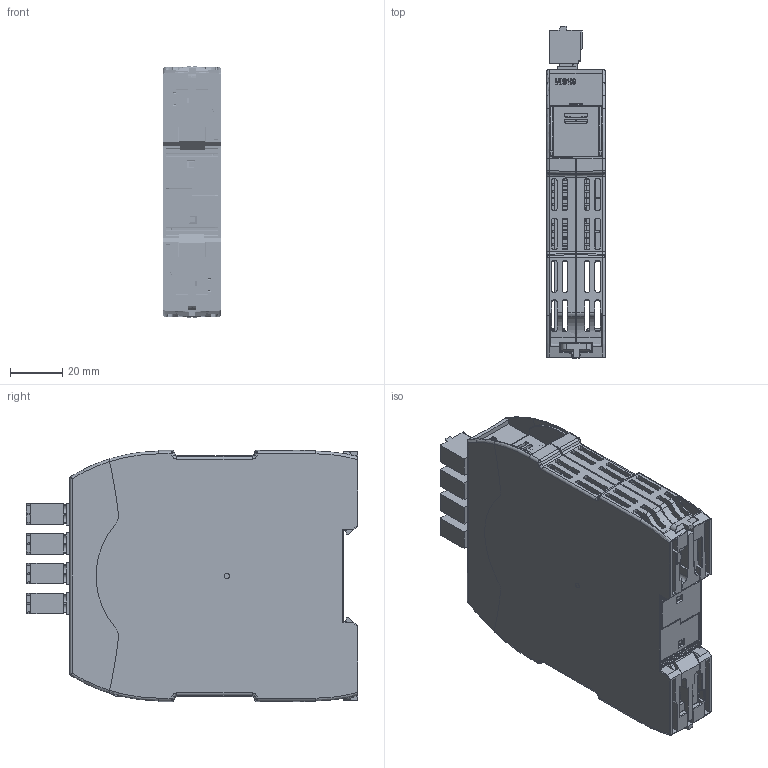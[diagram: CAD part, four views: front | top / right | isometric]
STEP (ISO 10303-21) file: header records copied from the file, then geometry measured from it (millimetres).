
FILE_DESCRIPTION(/* description */ (''),/* implementation_level */ '2;1');
FILE_NAME(/* name */ 'RevPi-RO v8.step',/* time_stamp */ '2024-01-07T23:46:32+01:00',/* author */ (''),/* organization */ (''),/* preprocessor_version */ 'ST-DEVELOPER v20',/* originating_system */ 'Autodesk Translation Framework v12.14.0.127',/* authorisation */ '');
FILE_SCHEMA (('AUTOMOTIVE_DESIGN { 1 0 10303 214 3 1 1 }'));
Products named in the file (65): RevPi-RO; RevPi-RO_1; Gehäuse-Pilz-22.5 v2; 2016282_ASM; 2016280_ASM; 2008350_AF4; 2016276_ASM; 2016274_ASM; 2008350_AF3; 2001992; 2025561_ASM; 2020990_AF0_ASM; 2008250_AF19; 2008248; Blende_17179; 2008358; St_X4-X2_4; BG0271R00_TOTAL v1; Board; Open CASCADE STEP translator 7.5 1.1.1; X200; 629105136821 (rev1); Shielding; Insulator; Pin; Z401; Z400; LD304; LD303; LD302; LD301; LD300; 23-22B; LABEL1; 6354208304; Extruded (3); K401; DMC1; 6354208464; Extruded (6)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
Assembly tree (102 placements, depth 6):
  RevPi-RO
    RevPi-RO_1
      Gehäuse-Pilz-22.5 v2
        2016282_ASM
          2016280_ASM
            2008350_AF4
          2001992
        2016276_ASM
          2016274_ASM
            2008350_AF3
          2001992
        2025561_ASM
          2020990_AF0_ASM
            2008250_AF19
          2008248  x2
      Blende_17179
        2008358
      St_X4-X2_4
    BG0271R00_TOTAL v1
      Board
        Open CASCADE STEP translator 7.5 1.1.1
      X200
        629105136821 (rev1)
          Shielding
          Insulator
          Pin  x5
      Z401
      Z400
      LD304
        23-22B
      LD303
        23-22B
      LD302
        23-22B
      LD301
        23-22B
      LD300
        23-22B
      LABEL1
        6354208304
          Extruded (3)
      K401
      DMC1
        6354208464
          Extruded (6)
      D200
      X402
        31523102
          Open CASCADE STEP translator 7.5 1.139.1.1
          Open CASCADE STEP translator 7.5 1.139.1.2
          Open CASCADE STEP translator 7.5 1.139.1.3
      X400
        31523102_1
          Open CASCADE STEP translator 7.5 1.139.1.1
          Open CASCADE STEP translator 7.5 1.139.1.2
          Open CASCADE STEP translator 7.5 1.139.1.3
      X401
        31523102_2
          Open CASCADE STEP translator 7.5 1.139.1.1
          Open CASCADE STEP translator 7.5 1.139.1.2
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Bounding box: 22.5 x 126.67 x 96 mm (x, y, z)
Volume: 59647.2 mm3; surface area: 102381.3 mm2
Topology: 84 solids, 84 shells, 8121 faces, 21795 edges, 13936 vertices
Faces by surface type: plane 5121, cylinder 2213, bspline 373, sphere 222, cone 129, torus 63
Full cylindrical faces by diameter (mm): 0.36 x1, 0.431 x1, 0.6 x2, 0.7 x2, 0.8 x28, 1 x25, 1.1 x25, 1.4 x12, 1.6 x4, 2 x2, 2.1 x5, 2.5 x3, 2.7 x4, 3 x5, 3.1 x8
Entity records: 212593 total; most frequent: CARTESIAN_POINT 54983, ORIENTED_EDGE 32956, DIRECTION 31115, EDGE_CURVE 16478, LINE 11959, VECTOR 11959, VERTEX_POINT 10460, AXIS2_PLACEMENT_3D 9578
